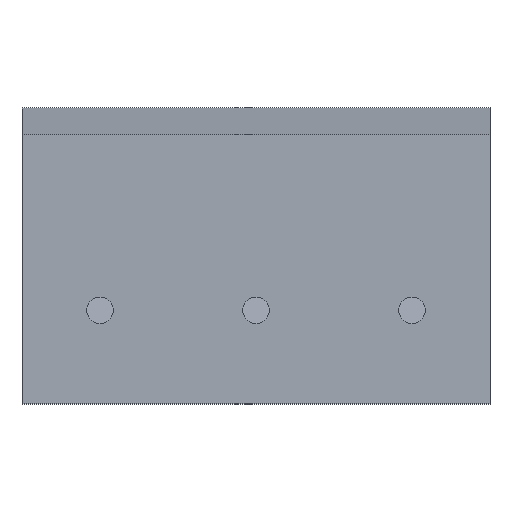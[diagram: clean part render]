
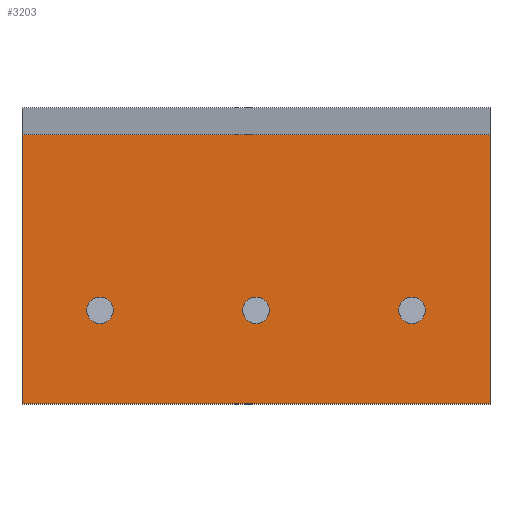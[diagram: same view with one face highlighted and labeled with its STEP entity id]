
A CAD part, top view. The second image highlights one B-rep face of the part: STEP entity #3203.
In plain terms, the highlighted planar face has unit normal (0, 0, 1).
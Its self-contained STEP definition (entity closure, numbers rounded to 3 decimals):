
#44 = PLANE('',#45);
#45 = AXIS2_PLACEMENT_3D('',#46,#47,#48);
#46 = CARTESIAN_POINT('',(30.,-41.442,-212.813));
#47 = DIRECTION('',(-1.,0.,0.));
#48 = DIRECTION('',(0.,0.,1.));
#100 = PLANE('',#101);
#101 = AXIS2_PLACEMENT_3D('',#102,#103,#104);
#102 = CARTESIAN_POINT('',(-30.,-41.442,-212.813));
#103 = DIRECTION('',(-1.,0.,0.));
#104 = DIRECTION('',(0.,0.,1.));
#144 = VERTEX_POINT('',#145);
#145 = CARTESIAN_POINT('',(30.,-40.,-119.04));
#159 = PLANE('',#160);
#160 = AXIS2_PLACEMENT_3D('',#161,#162,#163);
#161 = CARTESIAN_POINT('',(30.,-40.,-122.54));
#162 = DIRECTION('',(0.,-1.,0.));
#163 = DIRECTION('',(-0.,0.,-1.));
#441 = VERTEX_POINT('',#442);
#442 = CARTESIAN_POINT('',(30.,-74.5,-119.04));
#456 = PLANE('',#457);
#457 = AXIS2_PLACEMENT_3D('',#458,#459,#460);
#458 = CARTESIAN_POINT('',(30.,-74.5,-122.54));
#459 = DIRECTION('',(0.,1.,0.));
#460 = DIRECTION('',(0.,0.,1.));
#468 = EDGE_CURVE('',#441,#144,#469,.T.);
#469 = SURFACE_CURVE('',#470,(#474,#481),.PCURVE_S1.);
#470 = LINE('',#471,#472);
#471 = CARTESIAN_POINT('',(30.,-74.5,-119.04));
#472 = VECTOR('',#473,1.);
#473 = DIRECTION('',(0.,1.,0.));
#474 = PCURVE('',#44,#475);
#475 = DEFINITIONAL_REPRESENTATION('',(#476),#480);
#476 = LINE('',#477,#478);
#477 = CARTESIAN_POINT('',(93.773,-33.058));
#478 = VECTOR('',#479,1.);
#479 = DIRECTION('',(0.,1.));
#480 = ( GEOMETRIC_REPRESENTATION_CONTEXT(2) 
PARAMETRIC_REPRESENTATION_CONTEXT() REPRESENTATION_CONTEXT('2D SPACE',''
  ) );
#481 = PCURVE('',#482,#487);
#482 = PLANE('',#483);
#483 = AXIS2_PLACEMENT_3D('',#484,#485,#486);
#484 = CARTESIAN_POINT('',(30.,-74.5,-119.04));
#485 = DIRECTION('',(-0.,0.,-1.));
#486 = DIRECTION('',(0.,1.,0.));
#487 = DEFINITIONAL_REPRESENTATION('',(#488),#492);
#488 = LINE('',#489,#490);
#489 = CARTESIAN_POINT('',(0.,0.));
#490 = VECTOR('',#491,1.);
#491 = DIRECTION('',(1.,0.));
#492 = ( GEOMETRIC_REPRESENTATION_CONTEXT(2) 
PARAMETRIC_REPRESENTATION_CONTEXT() REPRESENTATION_CONTEXT('2D SPACE',''
  ) );
#2103 = VERTEX_POINT('',#2104);
#2104 = CARTESIAN_POINT('',(-30.,-74.5,-119.04));
#2125 = EDGE_CURVE('',#2103,#2126,#2128,.T.);
#2126 = VERTEX_POINT('',#2127);
#2127 = CARTESIAN_POINT('',(-30.,-40.,-119.04));
#2128 = SURFACE_CURVE('',#2129,(#2133,#2140),.PCURVE_S1.);
#2129 = LINE('',#2130,#2131);
#2130 = CARTESIAN_POINT('',(-30.,-74.5,-119.04));
#2131 = VECTOR('',#2132,1.);
#2132 = DIRECTION('',(0.,1.,0.));
#2133 = PCURVE('',#100,#2134);
#2134 = DEFINITIONAL_REPRESENTATION('',(#2135),#2139);
#2135 = LINE('',#2136,#2137);
#2136 = CARTESIAN_POINT('',(93.773,-33.058));
#2137 = VECTOR('',#2138,1.);
#2138 = DIRECTION('',(0.,1.));
#2139 = ( GEOMETRIC_REPRESENTATION_CONTEXT(2) 
PARAMETRIC_REPRESENTATION_CONTEXT() REPRESENTATION_CONTEXT('2D SPACE',''
  ) );
#2140 = PCURVE('',#482,#2141);
#2141 = DEFINITIONAL_REPRESENTATION('',(#2142),#2146);
#2142 = LINE('',#2143,#2144);
#2143 = CARTESIAN_POINT('',(0.,-60.));
#2144 = VECTOR('',#2145,1.);
#2145 = DIRECTION('',(1.,0.));
#2146 = ( GEOMETRIC_REPRESENTATION_CONTEXT(2) 
PARAMETRIC_REPRESENTATION_CONTEXT() REPRESENTATION_CONTEXT('2D SPACE',''
  ) );
#2854 = EDGE_CURVE('',#144,#2126,#2855,.T.);
#2855 = SURFACE_CURVE('',#2856,(#2860,#2867),.PCURVE_S1.);
#2856 = LINE('',#2857,#2858);
#2857 = CARTESIAN_POINT('',(30.,-40.,-119.04));
#2858 = VECTOR('',#2859,1.);
#2859 = DIRECTION('',(-1.,0.,0.));
#2860 = PCURVE('',#159,#2861);
#2861 = DEFINITIONAL_REPRESENTATION('',(#2862),#2866);
#2862 = LINE('',#2863,#2864);
#2863 = CARTESIAN_POINT('',(-3.5,0.));
#2864 = VECTOR('',#2865,1.);
#2865 = DIRECTION('',(0.,-1.));
#2866 = ( GEOMETRIC_REPRESENTATION_CONTEXT(2) 
PARAMETRIC_REPRESENTATION_CONTEXT() REPRESENTATION_CONTEXT('2D SPACE',''
  ) );
#2867 = PCURVE('',#482,#2868);
#2868 = DEFINITIONAL_REPRESENTATION('',(#2869),#2873);
#2869 = LINE('',#2870,#2871);
#2870 = CARTESIAN_POINT('',(34.5,0.));
#2871 = VECTOR('',#2872,1.);
#2872 = DIRECTION('',(0.,-1.));
#2873 = ( GEOMETRIC_REPRESENTATION_CONTEXT(2) 
PARAMETRIC_REPRESENTATION_CONTEXT() REPRESENTATION_CONTEXT('2D SPACE',''
  ) );
#3095 = CYLINDRICAL_SURFACE('',#3096,1.7);
#3096 = AXIS2_PLACEMENT_3D('',#3097,#3098,#3099);
#3097 = CARTESIAN_POINT('',(-20.,-62.5,-129.54));
#3098 = DIRECTION('',(0.,-0.,-1.));
#3099 = DIRECTION('',(0.,-1.,0.));
#3130 = CYLINDRICAL_SURFACE('',#3131,1.7);
#3131 = AXIS2_PLACEMENT_3D('',#3132,#3133,#3134);
#3132 = CARTESIAN_POINT('',(0.,-62.5,-129.54));
#3133 = DIRECTION('',(0.,-0.,-1.));
#3134 = DIRECTION('',(0.,-1.,0.));
#3165 = CYLINDRICAL_SURFACE('',#3166,1.7);
#3166 = AXIS2_PLACEMENT_3D('',#3167,#3168,#3169);
#3167 = CARTESIAN_POINT('',(20.,-62.5,-129.54));
#3168 = DIRECTION('',(0.,-0.,-1.));
#3169 = DIRECTION('',(0.,-1.,0.));
#3182 = EDGE_CURVE('',#441,#2103,#3183,.T.);
#3183 = SURFACE_CURVE('',#3184,(#3188,#3195),.PCURVE_S1.);
#3184 = LINE('',#3185,#3186);
#3185 = CARTESIAN_POINT('',(30.,-74.5,-119.04));
#3186 = VECTOR('',#3187,1.);
#3187 = DIRECTION('',(-1.,0.,0.));
#3188 = PCURVE('',#456,#3189);
#3189 = DEFINITIONAL_REPRESENTATION('',(#3190),#3194);
#3190 = LINE('',#3191,#3192);
#3191 = CARTESIAN_POINT('',(3.5,0.));
#3192 = VECTOR('',#3193,1.);
#3193 = DIRECTION('',(0.,-1.));
#3194 = ( GEOMETRIC_REPRESENTATION_CONTEXT(2) 
PARAMETRIC_REPRESENTATION_CONTEXT() REPRESENTATION_CONTEXT('2D SPACE',''
  ) );
#3195 = PCURVE('',#482,#3196);
#3196 = DEFINITIONAL_REPRESENTATION('',(#3197),#3201);
#3197 = LINE('',#3198,#3199);
#3198 = CARTESIAN_POINT('',(0.,0.));
#3199 = VECTOR('',#3200,1.);
#3200 = DIRECTION('',(0.,-1.));
#3201 = ( GEOMETRIC_REPRESENTATION_CONTEXT(2) 
PARAMETRIC_REPRESENTATION_CONTEXT() REPRESENTATION_CONTEXT('2D SPACE',''
  ) );
#3203 = ADVANCED_FACE('',(#3204,#3210,#3236,#3262),#482,.F.);
#3204 = FACE_BOUND('',#3205,.F.);
#3205 = EDGE_LOOP('',(#3206,#3207,#3208,#3209));
#3206 = ORIENTED_EDGE('',*,*,#3182,.T.);
#3207 = ORIENTED_EDGE('',*,*,#2125,.T.);
#3208 = ORIENTED_EDGE('',*,*,#2854,.F.);
#3209 = ORIENTED_EDGE('',*,*,#468,.F.);
#3210 = FACE_BOUND('',#3211,.F.);
#3211 = EDGE_LOOP('',(#3212));
#3212 = ORIENTED_EDGE('',*,*,#3213,.F.);
#3213 = EDGE_CURVE('',#3214,#3214,#3216,.T.);
#3214 = VERTEX_POINT('',#3215);
#3215 = CARTESIAN_POINT('',(-20.,-64.2,-119.04));
#3216 = SURFACE_CURVE('',#3217,(#3222,#3229),.PCURVE_S1.);
#3217 = CIRCLE('',#3218,1.7);
#3218 = AXIS2_PLACEMENT_3D('',#3219,#3220,#3221);
#3219 = CARTESIAN_POINT('',(-20.,-62.5,-119.04));
#3220 = DIRECTION('',(-0.,0.,-1.));
#3221 = DIRECTION('',(0.,-1.,0.));
#3222 = PCURVE('',#482,#3223);
#3223 = DEFINITIONAL_REPRESENTATION('',(#3224),#3228);
#3224 = CIRCLE('',#3225,1.7);
#3225 = AXIS2_PLACEMENT_2D('',#3226,#3227);
#3226 = CARTESIAN_POINT('',(12.,-50.));
#3227 = DIRECTION('',(-1.,0.));
#3228 = ( GEOMETRIC_REPRESENTATION_CONTEXT(2) 
PARAMETRIC_REPRESENTATION_CONTEXT() REPRESENTATION_CONTEXT('2D SPACE',''
  ) );
#3229 = PCURVE('',#3095,#3230);
#3230 = DEFINITIONAL_REPRESENTATION('',(#3231),#3235);
#3231 = LINE('',#3232,#3233);
#3232 = CARTESIAN_POINT('',(-6.283,-10.5));
#3233 = VECTOR('',#3234,1.);
#3234 = DIRECTION('',(1.,-0.));
#3235 = ( GEOMETRIC_REPRESENTATION_CONTEXT(2) 
PARAMETRIC_REPRESENTATION_CONTEXT() REPRESENTATION_CONTEXT('2D SPACE',''
  ) );
#3236 = FACE_BOUND('',#3237,.F.);
#3237 = EDGE_LOOP('',(#3238));
#3238 = ORIENTED_EDGE('',*,*,#3239,.F.);
#3239 = EDGE_CURVE('',#3240,#3240,#3242,.T.);
#3240 = VERTEX_POINT('',#3241);
#3241 = CARTESIAN_POINT('',(0.,-64.2,-119.04));
#3242 = SURFACE_CURVE('',#3243,(#3248,#3255),.PCURVE_S1.);
#3243 = CIRCLE('',#3244,1.7);
#3244 = AXIS2_PLACEMENT_3D('',#3245,#3246,#3247);
#3245 = CARTESIAN_POINT('',(0.,-62.5,-119.04));
#3246 = DIRECTION('',(-0.,0.,-1.));
#3247 = DIRECTION('',(0.,-1.,0.));
#3248 = PCURVE('',#482,#3249);
#3249 = DEFINITIONAL_REPRESENTATION('',(#3250),#3254);
#3250 = CIRCLE('',#3251,1.7);
#3251 = AXIS2_PLACEMENT_2D('',#3252,#3253);
#3252 = CARTESIAN_POINT('',(12.,-30.));
#3253 = DIRECTION('',(-1.,0.));
#3254 = ( GEOMETRIC_REPRESENTATION_CONTEXT(2) 
PARAMETRIC_REPRESENTATION_CONTEXT() REPRESENTATION_CONTEXT('2D SPACE',''
  ) );
#3255 = PCURVE('',#3130,#3256);
#3256 = DEFINITIONAL_REPRESENTATION('',(#3257),#3261);
#3257 = LINE('',#3258,#3259);
#3258 = CARTESIAN_POINT('',(-6.283,-10.5));
#3259 = VECTOR('',#3260,1.);
#3260 = DIRECTION('',(1.,-0.));
#3261 = ( GEOMETRIC_REPRESENTATION_CONTEXT(2) 
PARAMETRIC_REPRESENTATION_CONTEXT() REPRESENTATION_CONTEXT('2D SPACE',''
  ) );
#3262 = FACE_BOUND('',#3263,.F.);
#3263 = EDGE_LOOP('',(#3264));
#3264 = ORIENTED_EDGE('',*,*,#3265,.F.);
#3265 = EDGE_CURVE('',#3266,#3266,#3268,.T.);
#3266 = VERTEX_POINT('',#3267);
#3267 = CARTESIAN_POINT('',(20.,-64.2,-119.04));
#3268 = SURFACE_CURVE('',#3269,(#3274,#3281),.PCURVE_S1.);
#3269 = CIRCLE('',#3270,1.7);
#3270 = AXIS2_PLACEMENT_3D('',#3271,#3272,#3273);
#3271 = CARTESIAN_POINT('',(20.,-62.5,-119.04));
#3272 = DIRECTION('',(-0.,0.,-1.));
#3273 = DIRECTION('',(0.,-1.,0.));
#3274 = PCURVE('',#482,#3275);
#3275 = DEFINITIONAL_REPRESENTATION('',(#3276),#3280);
#3276 = CIRCLE('',#3277,1.7);
#3277 = AXIS2_PLACEMENT_2D('',#3278,#3279);
#3278 = CARTESIAN_POINT('',(12.,-10.));
#3279 = DIRECTION('',(-1.,0.));
#3280 = ( GEOMETRIC_REPRESENTATION_CONTEXT(2) 
PARAMETRIC_REPRESENTATION_CONTEXT() REPRESENTATION_CONTEXT('2D SPACE',''
  ) );
#3281 = PCURVE('',#3165,#3282);
#3282 = DEFINITIONAL_REPRESENTATION('',(#3283),#3287);
#3283 = LINE('',#3284,#3285);
#3284 = CARTESIAN_POINT('',(-6.283,-10.5));
#3285 = VECTOR('',#3286,1.);
#3286 = DIRECTION('',(1.,-0.));
#3287 = ( GEOMETRIC_REPRESENTATION_CONTEXT(2) 
PARAMETRIC_REPRESENTATION_CONTEXT() REPRESENTATION_CONTEXT('2D SPACE',''
  ) );
